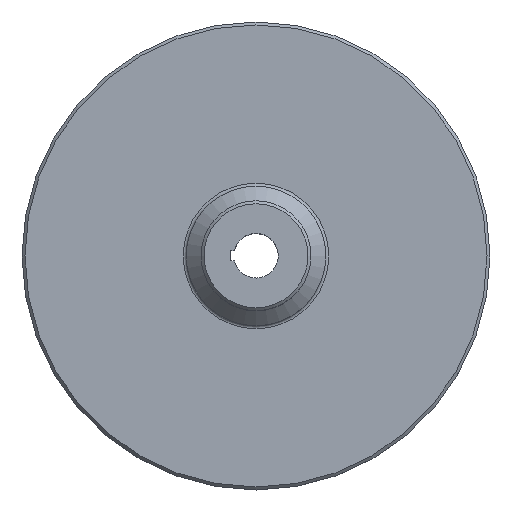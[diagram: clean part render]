
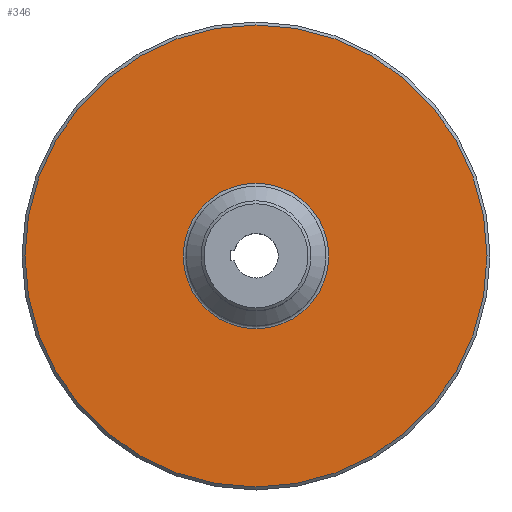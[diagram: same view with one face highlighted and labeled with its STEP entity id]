
A CAD part, top view. The second image highlights one B-rep face of the part: STEP entity #346.
In plain terms, the highlighted planar face has unit normal (0, 0, 1).
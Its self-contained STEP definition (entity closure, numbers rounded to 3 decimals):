
#23=PLANE('',#384);
#65=FACE_BOUND('',#120,.T.);
#86=FACE_OUTER_BOUND('',#119,.T.);
#119=EDGE_LOOP('',(#256));
#120=EDGE_LOOP('',(#257));
#154=CIRCLE('',#381,49.);
#156=CIRCLE('',#385,155.5);
#178=VERTEX_POINT('',#737);
#180=VERTEX_POINT('',#743);
#209=EDGE_CURVE('',#178,#178,#154,.T.);
#211=EDGE_CURVE('',#180,#180,#156,.T.);
#256=ORIENTED_EDGE('',*,*,#211,.F.);
#257=ORIENTED_EDGE('',*,*,#209,.F.);
#346=ADVANCED_FACE('',(#86,#65),#23,.T.);
#381=AXIS2_PLACEMENT_3D('',#738,#442,#443);
#384=AXIS2_PLACEMENT_3D('',#742,#448,#449);
#385=AXIS2_PLACEMENT_3D('',#744,#450,#451);
#442=DIRECTION('center_axis',(0.,0.,1.));
#443=DIRECTION('ref_axis',(-1.,0.,0.));
#448=DIRECTION('center_axis',(0.,0.,1.));
#449=DIRECTION('ref_axis',(1.,0.,0.));
#450=DIRECTION('center_axis',(0.,0.,-1.));
#451=DIRECTION('ref_axis',(-1.,0.,0.));
#737=CARTESIAN_POINT('',(42.158,-11.257,-39.415));
#738=CARTESIAN_POINT('Origin',(-6.842,-11.257,-39.415));
#742=CARTESIAN_POINT('Origin',(-6.842,-11.257,-39.415));
#743=CARTESIAN_POINT('',(148.658,-11.257,-39.415));
#744=CARTESIAN_POINT('Origin',(-6.842,-11.257,-39.415));
